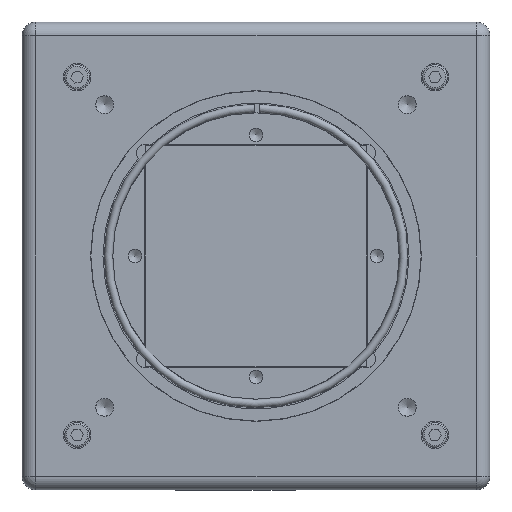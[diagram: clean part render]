
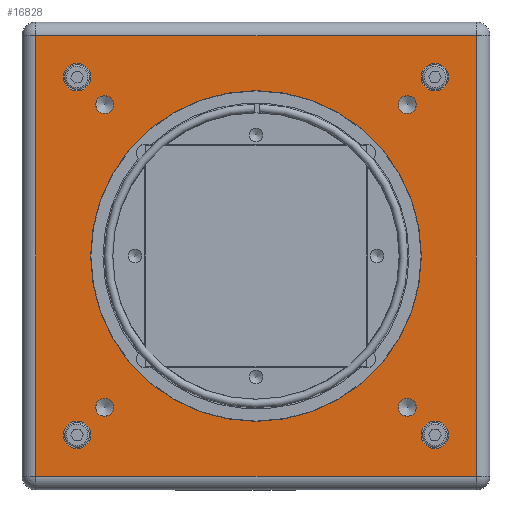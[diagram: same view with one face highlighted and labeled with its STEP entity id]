
A CAD part, front view. The second image highlights one B-rep face of the part: STEP entity #16828.
In plain terms, the highlighted planar face has unit normal (0, -1, 0).
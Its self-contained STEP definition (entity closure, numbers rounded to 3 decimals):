
#212=CIRCLE('',#17613,30.05);
#213=CIRCLE('',#17614,2.5);
#214=CIRCLE('',#17615,2.5);
#215=CIRCLE('',#17616,2.5);
#216=CIRCLE('',#17617,2.5);
#217=CIRCLE('',#17618,2.5);
#218=CIRCLE('',#17619,2.5);
#219=CIRCLE('',#17620,2.5);
#220=CIRCLE('',#17621,2.5);
#221=CIRCLE('',#17622,1.621);
#222=CIRCLE('',#17623,1.621);
#223=CIRCLE('',#17624,1.621);
#224=CIRCLE('',#17625,1.621);
#225=CIRCLE('',#17626,1.621);
#226=CIRCLE('',#17627,1.621);
#227=CIRCLE('',#17628,1.621);
#228=CIRCLE('',#17629,1.621);
#1006=FACE_BOUND('',#2656,.T.);
#1007=FACE_BOUND('',#2657,.T.);
#1008=FACE_BOUND('',#2658,.T.);
#1009=FACE_BOUND('',#2659,.T.);
#1010=FACE_BOUND('',#2660,.T.);
#1011=FACE_BOUND('',#2661,.T.);
#1012=FACE_BOUND('',#2662,.T.);
#1013=FACE_BOUND('',#2663,.T.);
#1014=FACE_BOUND('',#2664,.T.);
#1911=FACE_OUTER_BOUND('',#2655,.T.);
#2655=EDGE_LOOP('',(#12133,#12134,#12135,#12136));
#2656=EDGE_LOOP('',(#12137));
#2657=EDGE_LOOP('',(#12138,#12139));
#2658=EDGE_LOOP('',(#12140,#12141));
#2659=EDGE_LOOP('',(#12142,#12143));
#2660=EDGE_LOOP('',(#12144,#12145));
#2661=EDGE_LOOP('',(#12146,#12147));
#2662=EDGE_LOOP('',(#12148,#12149));
#2663=EDGE_LOOP('',(#12150,#12151));
#2664=EDGE_LOOP('',(#12152,#12153));
#3666=LINE('',#26174,#5216);
#3667=LINE('',#26176,#5217);
#3668=LINE('',#26178,#5218);
#3669=LINE('',#26179,#5219);
#5216=VECTOR('',#19562,10.);
#5217=VECTOR('',#19563,10.);
#5218=VECTOR('',#19564,10.);
#5219=VECTOR('',#19565,10.);
#6865=VERTEX_POINT('',#26172);
#6866=VERTEX_POINT('',#26173);
#6867=VERTEX_POINT('',#26175);
#6868=VERTEX_POINT('',#26177);
#6869=VERTEX_POINT('',#26180);
#6870=VERTEX_POINT('',#26182);
#6871=VERTEX_POINT('',#26183);
#6872=VERTEX_POINT('',#26186);
#6873=VERTEX_POINT('',#26187);
#6874=VERTEX_POINT('',#26190);
#6875=VERTEX_POINT('',#26191);
#6876=VERTEX_POINT('',#26194);
#6877=VERTEX_POINT('',#26195);
#6878=VERTEX_POINT('',#26198);
#6879=VERTEX_POINT('',#26199);
#6880=VERTEX_POINT('',#26202);
#6881=VERTEX_POINT('',#26203);
#6882=VERTEX_POINT('',#26206);
#6883=VERTEX_POINT('',#26207);
#6884=VERTEX_POINT('',#26210);
#6885=VERTEX_POINT('',#26211);
#9036=EDGE_CURVE('',#6865,#6866,#3666,.T.);
#9037=EDGE_CURVE('',#6867,#6865,#3667,.T.);
#9038=EDGE_CURVE('',#6868,#6867,#3668,.T.);
#9039=EDGE_CURVE('',#6866,#6868,#3669,.T.);
#9040=EDGE_CURVE('',#6869,#6869,#212,.T.);
#9041=EDGE_CURVE('',#6870,#6871,#213,.T.);
#9042=EDGE_CURVE('',#6871,#6870,#214,.T.);
#9043=EDGE_CURVE('',#6872,#6873,#215,.T.);
#9044=EDGE_CURVE('',#6873,#6872,#216,.T.);
#9045=EDGE_CURVE('',#6874,#6875,#217,.T.);
#9046=EDGE_CURVE('',#6875,#6874,#218,.T.);
#9047=EDGE_CURVE('',#6876,#6877,#219,.T.);
#9048=EDGE_CURVE('',#6877,#6876,#220,.T.);
#9049=EDGE_CURVE('',#6878,#6879,#221,.T.);
#9050=EDGE_CURVE('',#6879,#6878,#222,.T.);
#9051=EDGE_CURVE('',#6880,#6881,#223,.T.);
#9052=EDGE_CURVE('',#6881,#6880,#224,.T.);
#9053=EDGE_CURVE('',#6882,#6883,#225,.T.);
#9054=EDGE_CURVE('',#6883,#6882,#226,.T.);
#9055=EDGE_CURVE('',#6884,#6885,#227,.T.);
#9056=EDGE_CURVE('',#6885,#6884,#228,.T.);
#12133=ORIENTED_EDGE('',*,*,#9036,.F.);
#12134=ORIENTED_EDGE('',*,*,#9037,.F.);
#12135=ORIENTED_EDGE('',*,*,#9038,.F.);
#12136=ORIENTED_EDGE('',*,*,#9039,.F.);
#12137=ORIENTED_EDGE('',*,*,#9040,.T.);
#12138=ORIENTED_EDGE('',*,*,#9041,.T.);
#12139=ORIENTED_EDGE('',*,*,#9042,.T.);
#12140=ORIENTED_EDGE('',*,*,#9043,.T.);
#12141=ORIENTED_EDGE('',*,*,#9044,.T.);
#12142=ORIENTED_EDGE('',*,*,#9045,.T.);
#12143=ORIENTED_EDGE('',*,*,#9046,.T.);
#12144=ORIENTED_EDGE('',*,*,#9047,.T.);
#12145=ORIENTED_EDGE('',*,*,#9048,.T.);
#12146=ORIENTED_EDGE('',*,*,#9049,.T.);
#12147=ORIENTED_EDGE('',*,*,#9050,.T.);
#12148=ORIENTED_EDGE('',*,*,#9051,.T.);
#12149=ORIENTED_EDGE('',*,*,#9052,.T.);
#12150=ORIENTED_EDGE('',*,*,#9053,.T.);
#12151=ORIENTED_EDGE('',*,*,#9054,.T.);
#12152=ORIENTED_EDGE('',*,*,#9055,.T.);
#12153=ORIENTED_EDGE('',*,*,#9056,.T.);
#15593=PLANE('',#17612);
#16828=ADVANCED_FACE('',(#1911,#1006,#1007,#1008,#1009,#1010,#1011,#1012,
#1013,#1014),#15593,.T.);
#17612=AXIS2_PLACEMENT_3D('',#26171,#19560,#19561);
#17613=AXIS2_PLACEMENT_3D('',#26181,#19566,#19567);
#17614=AXIS2_PLACEMENT_3D('',#26184,#19568,#19569);
#17615=AXIS2_PLACEMENT_3D('',#26185,#19570,#19571);
#17616=AXIS2_PLACEMENT_3D('',#26188,#19572,#19573);
#17617=AXIS2_PLACEMENT_3D('',#26189,#19574,#19575);
#17618=AXIS2_PLACEMENT_3D('',#26192,#19576,#19577);
#17619=AXIS2_PLACEMENT_3D('',#26193,#19578,#19579);
#17620=AXIS2_PLACEMENT_3D('',#26196,#19580,#19581);
#17621=AXIS2_PLACEMENT_3D('',#26197,#19582,#19583);
#17622=AXIS2_PLACEMENT_3D('',#26200,#19584,#19585);
#17623=AXIS2_PLACEMENT_3D('',#26201,#19586,#19587);
#17624=AXIS2_PLACEMENT_3D('',#26204,#19588,#19589);
#17625=AXIS2_PLACEMENT_3D('',#26205,#19590,#19591);
#17626=AXIS2_PLACEMENT_3D('',#26208,#19592,#19593);
#17627=AXIS2_PLACEMENT_3D('',#26209,#19594,#19595);
#17628=AXIS2_PLACEMENT_3D('',#26212,#19596,#19597);
#17629=AXIS2_PLACEMENT_3D('',#26213,#19598,#19599);
#19560=DIRECTION('center_axis',(0.,-1.,0.));
#19561=DIRECTION('ref_axis',(0.,0.,
-1.));
#19562=DIRECTION('',(-1.,0.,0.));
#19563=DIRECTION('',(0.,0.,-1.));
#19564=DIRECTION('',(1.,0.,0.));
#19565=DIRECTION('',(0.,0.,1.));
#19566=DIRECTION('center_axis',(0.,1.,0.));
#19567=DIRECTION('ref_axis',(0.,0.,
1.));
#19568=DIRECTION('center_axis',(0.,1.,0.));
#19569=DIRECTION('ref_axis',(0.,0.,
-1.));
#19570=DIRECTION('center_axis',(0.,1.,0.));
#19571=DIRECTION('ref_axis',(0.,0.,
-1.));
#19572=DIRECTION('center_axis',(0.,1.,0.));
#19573=DIRECTION('ref_axis',(0.,0.,
-1.));
#19574=DIRECTION('center_axis',(0.,1.,0.));
#19575=DIRECTION('ref_axis',(0.,0.,
-1.));
#19576=DIRECTION('center_axis',(0.,1.,0.));
#19577=DIRECTION('ref_axis',(0.,0.,
-1.));
#19578=DIRECTION('center_axis',(0.,1.,0.));
#19579=DIRECTION('ref_axis',(0.,0.,
-1.));
#19580=DIRECTION('center_axis',(0.,1.,0.));
#19581=DIRECTION('ref_axis',(0.,0.,
-1.));
#19582=DIRECTION('center_axis',(0.,1.,0.));
#19583=DIRECTION('ref_axis',(0.,0.,
-1.));
#19584=DIRECTION('center_axis',(0.,1.,0.));
#19585=DIRECTION('ref_axis',(0.,0.,
-1.));
#19586=DIRECTION('center_axis',(0.,1.,0.));
#19587=DIRECTION('ref_axis',(0.,0.,
-1.));
#19588=DIRECTION('center_axis',(0.,1.,0.));
#19589=DIRECTION('ref_axis',(0.,0.,
-1.));
#19590=DIRECTION('center_axis',(0.,1.,0.));
#19591=DIRECTION('ref_axis',(0.,0.,
-1.));
#19592=DIRECTION('center_axis',(0.,1.,0.));
#19593=DIRECTION('ref_axis',(0.,0.,
-1.));
#19594=DIRECTION('center_axis',(0.,1.,0.));
#19595=DIRECTION('ref_axis',(0.,0.,
-1.));
#19596=DIRECTION('center_axis',(0.,1.,0.));
#19597=DIRECTION('ref_axis',(0.,0.,
-1.));
#19598=DIRECTION('center_axis',(0.,1.,0.));
#19599=DIRECTION('ref_axis',(0.,0.,
-1.));
#26171=CARTESIAN_POINT('Origin',(-108.858,-97.66,-23.039));
#26172=CARTESIAN_POINT('',(-68.858,-97.66,-63.039));
#26173=CARTESIAN_POINT('',(-148.858,-97.66,-63.039));
#26174=CARTESIAN_POINT('',(-87.608,-97.66,-63.039));
#26175=CARTESIAN_POINT('',(-68.858,-97.66,16.961));
#26176=CARTESIAN_POINT('',(-68.858,-97.66,-1.789));
#26177=CARTESIAN_POINT('',(-148.858,-97.66,16.961));
#26178=CARTESIAN_POINT('',(-130.108,-97.66,16.961));
#26179=CARTESIAN_POINT('',(-148.858,-97.66,-44.289));
#26180=CARTESIAN_POINT('',(-108.858,-97.66,-53.089));
#26181=CARTESIAN_POINT('Origin',(-108.858,-97.66,-23.039));
#26182=CARTESIAN_POINT('',(-76.358,-97.66,6.961));
#26183=CARTESIAN_POINT('',(-76.358,-97.66,11.961));
#26184=CARTESIAN_POINT('Origin',(-76.358,-97.66,9.461));
#26185=CARTESIAN_POINT('Origin',(-76.358,-97.66,9.461));
#26186=CARTESIAN_POINT('',(-76.358,-97.66,-58.039));
#26187=CARTESIAN_POINT('',(-76.358,-97.66,-53.039));
#26188=CARTESIAN_POINT('Origin',(-76.358,-97.66,-55.539));
#26189=CARTESIAN_POINT('Origin',(-76.358,-97.66,-55.539));
#26190=CARTESIAN_POINT('',(-141.358,-97.66,-58.039));
#26191=CARTESIAN_POINT('',(-141.358,-97.66,-53.039));
#26192=CARTESIAN_POINT('Origin',(-141.358,-97.66,-55.539));
#26193=CARTESIAN_POINT('Origin',(-141.358,-97.66,-55.539));
#26194=CARTESIAN_POINT('',(-141.358,-97.66,6.961));
#26195=CARTESIAN_POINT('',(-141.358,-97.66,11.961));
#26196=CARTESIAN_POINT('Origin',(-141.358,-97.66,9.461));
#26197=CARTESIAN_POINT('Origin',(-141.358,-97.66,9.461));
#26198=CARTESIAN_POINT('',(-81.358,-97.66,2.84));
#26199=CARTESIAN_POINT('',(-81.358,-97.66,6.082));
#26200=CARTESIAN_POINT('Origin',(-81.358,-97.66,4.461));
#26201=CARTESIAN_POINT('Origin',(-81.358,-97.66,4.461));
#26202=CARTESIAN_POINT('',(-81.358,-97.66,-52.16));
#26203=CARTESIAN_POINT('',(-81.358,-97.66,-48.918));
#26204=CARTESIAN_POINT('Origin',(-81.358,-97.66,-50.539));
#26205=CARTESIAN_POINT('Origin',(-81.358,-97.66,-50.539));
#26206=CARTESIAN_POINT('',(-136.358,-97.66,-52.16));
#26207=CARTESIAN_POINT('',(-136.358,-97.66,-48.918));
#26208=CARTESIAN_POINT('Origin',(-136.358,-97.66,-50.539));
#26209=CARTESIAN_POINT('Origin',(-136.358,-97.66,-50.539));
#26210=CARTESIAN_POINT('',(-136.358,-97.66,2.84));
#26211=CARTESIAN_POINT('',(-136.358,-97.66,6.082));
#26212=CARTESIAN_POINT('Origin',(-136.358,-97.66,4.461));
#26213=CARTESIAN_POINT('Origin',(-136.358,-97.66,4.461));
